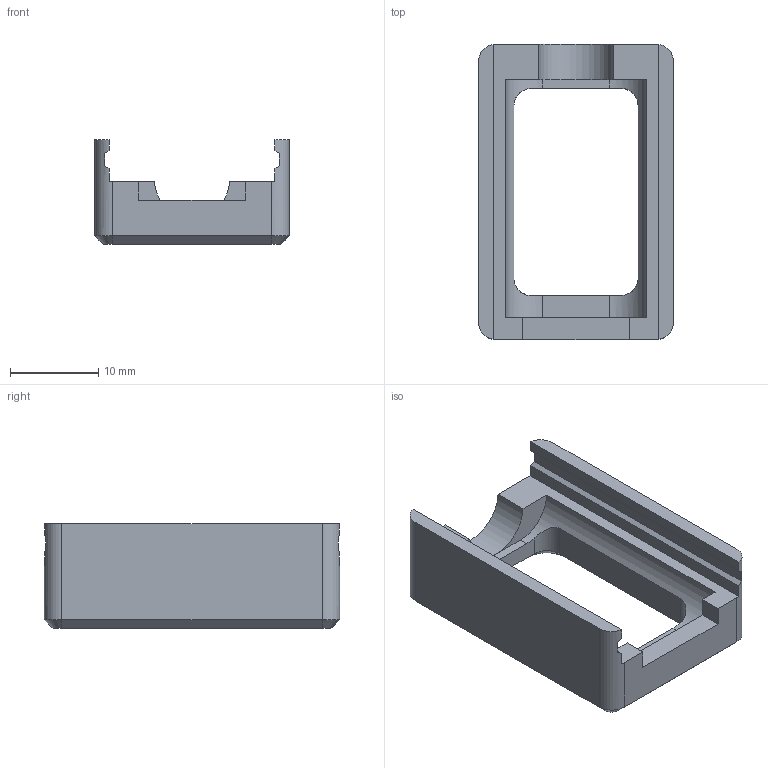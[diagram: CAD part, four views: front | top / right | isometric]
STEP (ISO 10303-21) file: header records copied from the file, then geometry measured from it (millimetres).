
FILE_DESCRIPTION(/* description */ ('STEP AP242','CAx-IF Rec.Pracs.---Representation and Presentation of Product Manufacturing Information (PMI)---4.0---2014-10-13','CAx-IF Rec.Pracs.---3D Tessellated Geometry---0.4---2014-09-14','2;1'),/* implementation_level */ '2;1');
FILE_NAME(/* name */ '687e6be4f344454910d4818a',/* time_stamp */ '2025-07-21T16:33:41Z',/* author */ (''),/* organization */ (''),/* preprocessor_version */ 'ST-DEVELOPER v20',/* originating_system */ 'ONSHAPE BY PTC INC, 1.201',/* authorisation */ ' ');
FILE_SCHEMA (('AP242_MANAGED_MODEL_BASED_3D_ENGINEERING_MIM_LF { 1 0 10303 442 1 1 4 }'));
Length unit declared in the file: metre
Products named in the file (1): USB 3.0 Cover
Bounding box: 22.1 x 33.5 x 11.9 mm (x, y, z)
Volume: 2810.5 mm3; surface area: 2595.2 mm2
Topology: 1 solids, 1 shells, 58 faces, 154 edges, 97 vertices
Faces by surface type: plane 39, cylinder 11, cone 8
Entity records: 1823 total; most frequent: CARTESIAN_POINT 330, DIRECTION 311, ORIENTED_EDGE 308, EDGE_CURVE 154, LINE 107, VECTOR 107, AXIS2_PLACEMENT_3D 102, VERTEX_POINT 97
